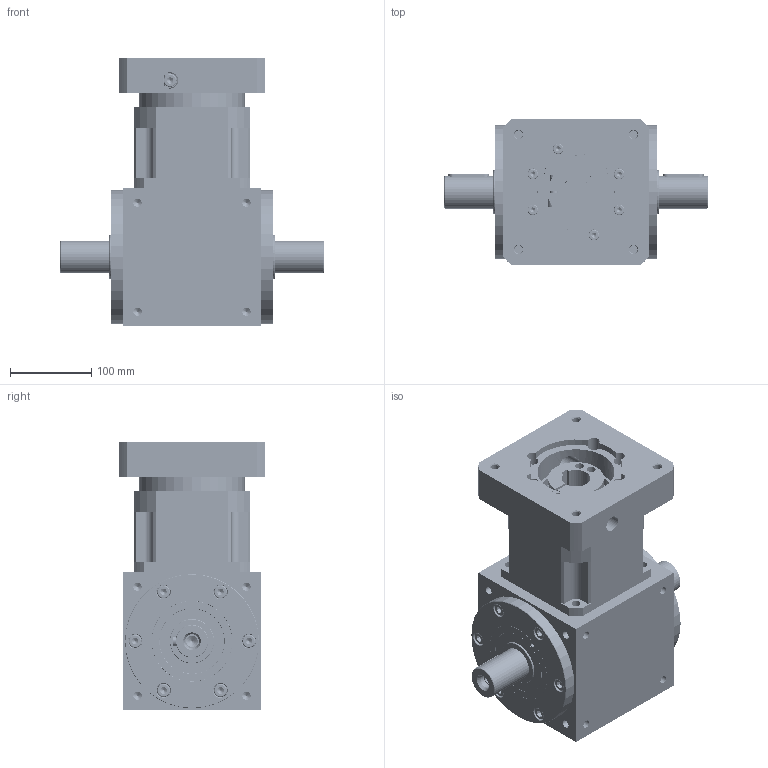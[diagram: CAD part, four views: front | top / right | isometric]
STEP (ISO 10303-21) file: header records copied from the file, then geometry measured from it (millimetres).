
FILE_DESCRIPTION (( 'STEP AP214' ), '1' );
FILE_NAME ('LAT170-FL-AB142-L1-35J10-114.3-200-M12蛌砃儂.STEP', '2025-03-06T02:52:33', ( 'Windows 蚚誧' ), ( 'Organization' ), 'SwSTEP 2.0', 'SolidWorks 2023', '' );
FILE_SCHEMA (( 'AUTOMOTIVE_DESIGN' ));
Length unit declared in the file: millimetre
Products named in the file (1): LAT170-FL-AB142-L1-35J10-114.3-200-M12转向机
Bounding box: 324 x 180 x 330.5 mm (x, y, z)
Volume: 7110338.3 mm3; surface area: 853548.9 mm2
Topology: 37 solids, 37 shells, 3972 faces, 8411 edges, 4528 vertices
Faces by surface type: cone 2038, cylinder 1404, plane 488, torus 42
Entity records: 105220 total; most frequent: DIRECTION 20122, CARTESIAN_POINT 18462, ORIENTED_EDGE 16590, EDGE_CURVE 8295, AXIS2_PLACEMENT_3D 8007, VERTEX_POINT 4528, EDGE_LOOP 4237, LINE 4108
